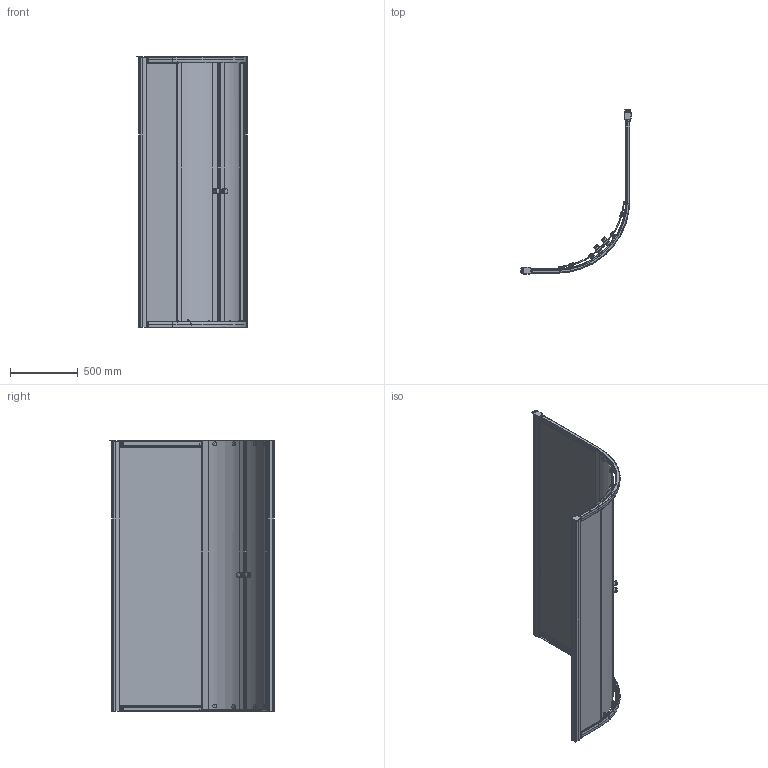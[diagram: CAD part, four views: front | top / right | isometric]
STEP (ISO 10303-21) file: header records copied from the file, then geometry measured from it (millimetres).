
FILE_DESCRIPTION(/* description */ (''),/* implementation_level */ '2;1');
FILE_NAME(/* name */ 'D:\!\!!\GUWER GK-664RR\GUWER GK-664RR-3D.stp',/* time_stamp */ '2019-10-01T18:41:23+03:00',/* author */ ('User'),/* organization */ (''),/* preprocessor_version */ 'ST-DEVELOPER v15.2',/* originating_system */ 'Autodesk Inventor 2014',/* authorisation */ '');
FILE_SCHEMA (('CONFIG_CONTROL_DESIGN'));
Products named in the file (1): GUWER GK-664RR-3D
Bounding box: 817.14 x 1217.14 x 2002.01 mm (x, y, z)
Volume: 32395491.1 mm3; surface area: 8638354.8 mm2
Topology: 12 solids, 82 shells, 4630 faces, 12247 edges, 7807 vertices
Faces by surface type: plane 2276, cylinder 1156, bspline 525, cone 319, torus 302, sphere 52
Full cylindrical faces by diameter (mm): 3 x4, 3.5 x8, 3.6 x8, 3.7 x12, 4 x8, 4.134 x4, 4.509 x4, 4.917 x4, 5 x4, 6 x8, 7 x16, 8 x6, 8.8 x16, 9.2 x16, 9.5 x8, 10.2 x8, 11 x34, 13.2 x3, 14.1 x32, 19 x1, 24.2 x31, 28.7 x8, 30 x4, 38 x8
Entity records: 166605 total; most frequent: CARTESIAN_POINT 52276, ORIENTED_EDGE 23360, DIRECTION 21560, EDGE_CURVE 11672, VERTEX_POINT 7641, AXIS2_PLACEMENT_3D 7536, LINE 6488, VECTOR 6488
